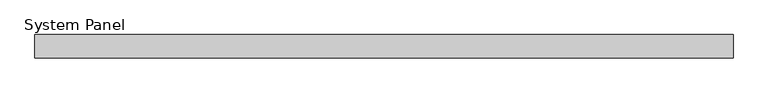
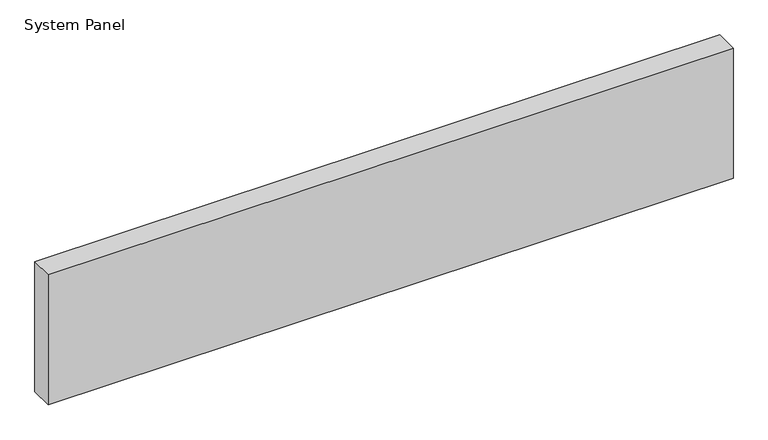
"""IFC4 building model written with IfcOpenShell, lengths in millimetres: plate geometry, System Panel : Equitilt 200mm Horizontal - Plain RHEA - EPS-FR."""

from ifc_helpers import new_model, si_unit, origin, origin_with_axes, place, context, project, spatial, polyline, outline, extrude, source, transform, mapped, element, save


def system_panel_9321762e(model_context):
    return source(origin(), model_context, "Body", "SweptSolid", [
        extrude(outline(polyline([(2990.0, -200.0), (-2990.0, -200.0), (-2990.0, 0.0), (2990.0, 0.0), (2990.0, -200.0)])), origin_with_axes(), (0.0, 0.0, 1.0), 1200.0),
    ])


if __name__ == "__main__":
    model = new_model("IFC4")
    model_context = context("Model", 3, world=origin())
    ifc_project = project(units=[si_unit("LENGTHUNIT", "METRE", prefix="MILLI")], contexts=[model_context])
    site = spatial("IfcSite", under=ifc_project)
    building = spatial("IfcBuilding", under=site)
    placement = place(None, origin())
    system_panel_shape = system_panel_9321762e(model_context)
    element("IfcPlate", 1, ObjectType="System Panel : Equitilt 200mm Horizontal - Plain RHEA - EPS-FR", at=placement, inside=building, context=model_context, shape_type="MappedRepresentation", body=[
        mapped(system_panel_shape, transform((0.0, 0.0, 0.0), x_axis=(1.0, 0.0, 0.0), y_axis=(0.0, 1.0, 0.0), z_axis=(0.0, 0.0, 1.0))),
    ])
    save(model, "model.ifc")
